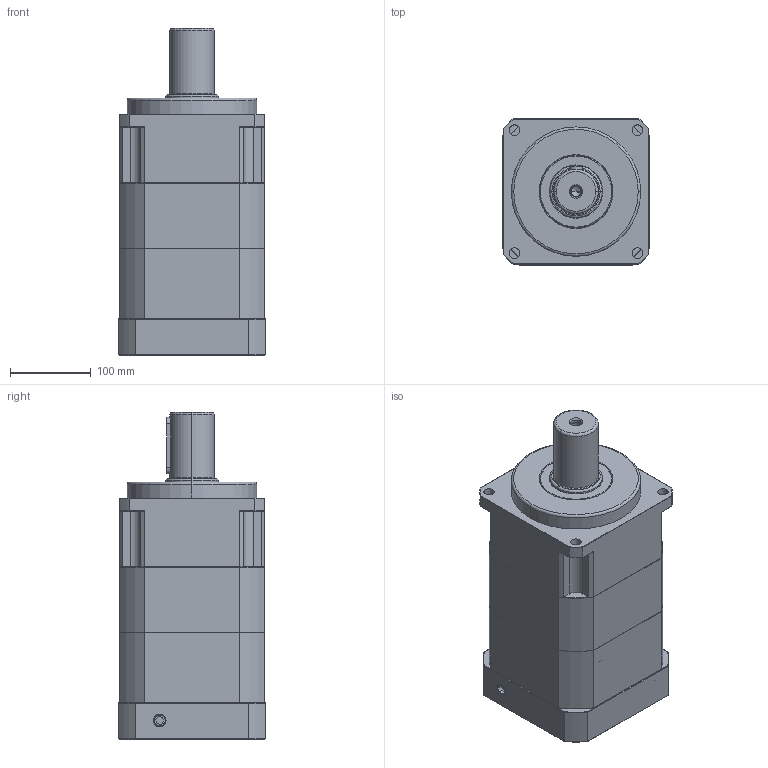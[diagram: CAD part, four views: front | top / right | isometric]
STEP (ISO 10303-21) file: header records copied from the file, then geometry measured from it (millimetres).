
FILE_DESCRIPTION (( 'STEP AP203' ), '1' );
FILE_NAME ('SB180A-2-114.3M12.step', '2023-05-31T09:08:18', ( 'lim' ), ( '' ), 'SwSTEP 2.0', 'SolidWorks 2021', '' );
FILE_SCHEMA (( 'CONFIG_CONTROL_DESIGN' ));
Length unit declared in the file: millimetre
Products named in the file (1): SB180A-2-114.3M12
Bounding box: 182 x 182 x 404.5 mm (x, y, z)
Volume: 7678995.2 mm3; surface area: 530951.6 mm2
Topology: 2 solids, 12 shells, 666 faces, 1569 edges, 962 vertices
Faces by surface type: plane 258, cylinder 207, cone 175, torus 26
Entity records: 19661 total; most frequent: CARTESIAN_POINT 3936, DIRECTION 3492, ORIENTED_EDGE 3102, EDGE_CURVE 1551, AXIS2_PLACEMENT_3D 1384, VERTEX_POINT 962, EDGE_LOOP 769, VECTOR 724
